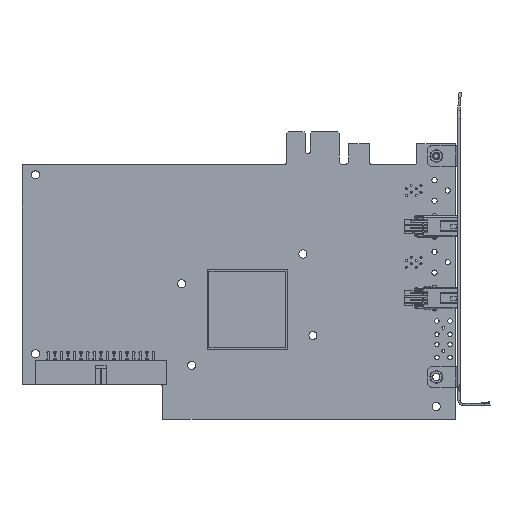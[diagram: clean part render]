
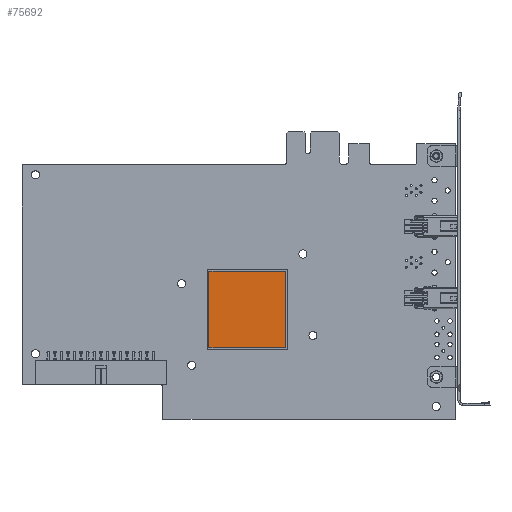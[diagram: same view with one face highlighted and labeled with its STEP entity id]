
A CAD part, top view. The second image highlights one B-rep face of the part: STEP entity #75692.
In plain terms, the highlighted planar face has unit normal (0, 0, 1).
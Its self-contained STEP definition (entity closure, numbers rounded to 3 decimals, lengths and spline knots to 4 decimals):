
#75500=DIRECTION('',(0.,1.,0.));
#75501=VECTOR('',#75500,1.1654);
#75502=CARTESIAN_POINT('',(-2.5888,-3.1107,
0.1462));
#75503=LINE('',#75502,#75501);
#75504=DIRECTION('',(1.,0.,0.));
#75505=VECTOR('',#75504,1.1654);
#75506=CARTESIAN_POINT('',(-3.7542,-3.1107,
0.1462));
#75507=LINE('',#75506,#75505);
#75508=DIRECTION('',(0.,-1.,0.));
#75509=VECTOR('',#75508,1.1654);
#75510=CARTESIAN_POINT('',(-3.7542,-1.9453,
0.1462));
#75511=LINE('',#75510,#75509);
#75512=DIRECTION('',(-1.,0.,0.));
#75513=VECTOR('',#75512,1.1654);
#75514=CARTESIAN_POINT('',(-2.5888,-1.9453,
0.1462));
#75515=LINE('',#75514,#75513);
#75540=CARTESIAN_POINT('',(-2.5888,-3.1107,
0.1462));
#75541=CARTESIAN_POINT('',(-2.5888,-1.9453,
0.1462));
#75542=VERTEX_POINT('',#75540);
#75543=VERTEX_POINT('',#75541);
#75544=CARTESIAN_POINT('',(-3.7542,-1.9453,
0.1462));
#75545=VERTEX_POINT('',#75544);
#75546=CARTESIAN_POINT('',(-3.7542,-3.1107,
0.1462));
#75547=VERTEX_POINT('',#75546);
#75679=CARTESIAN_POINT('',(-2.5613,-3.1382,
0.1462));
#75680=DIRECTION('',(0.,0.,1.));
#75681=DIRECTION('',(-1.,0.,0.));
#75682=AXIS2_PLACEMENT_3D('',#75679,#75680,#75681);
#75683=PLANE('',#75682);
#75684=ORIENTED_EDGE('',*,*,#75672,.F.);
#75685=ORIENTED_EDGE('',*,*,#75565,.F.);
#75687=ORIENTED_EDGE('',*,*,#75686,.F.);
#75689=ORIENTED_EDGE('',*,*,#75688,.F.);
#75690=EDGE_LOOP('',(#75684,#75685,#75687,#75689));
#75691=FACE_OUTER_BOUND('',#75690,.F.);
#75692=ADVANCED_FACE('',(#75691),#75683,.T.);
#75565=EDGE_CURVE('',#75547,#75542,#75507,.T.);
#75672=EDGE_CURVE('',#75542,#75543,#75503,.T.);
#75686=EDGE_CURVE('',#75545,#75547,#75511,.T.);
#75688=EDGE_CURVE('',#75543,#75545,#75515,.T.);
